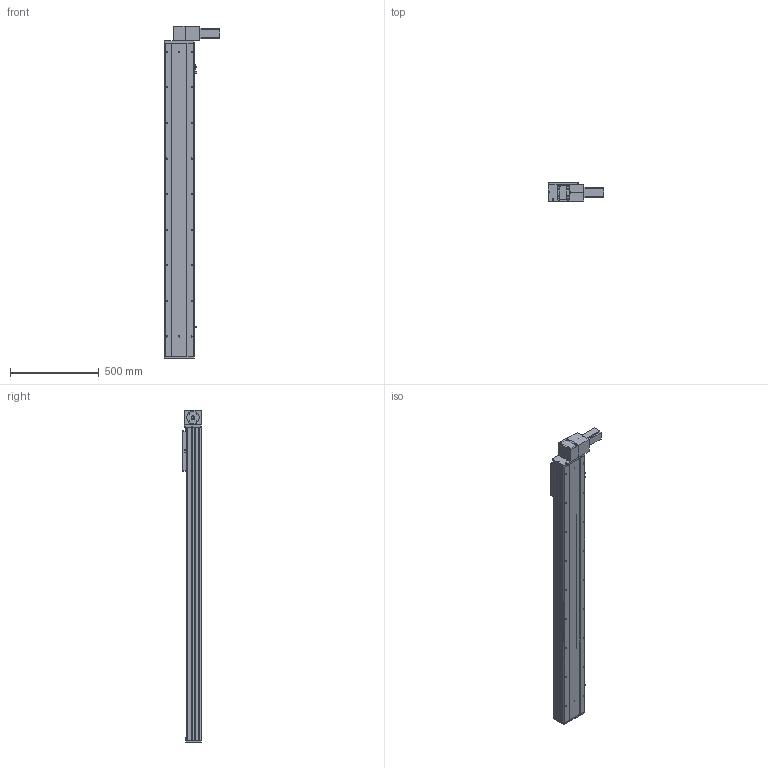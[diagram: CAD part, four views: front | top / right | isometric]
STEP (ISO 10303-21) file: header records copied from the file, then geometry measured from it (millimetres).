
FILE_DESCRIPTION (( 'STEP AP203' ), '1' );
FILE_NAME ('Y170CB-D105-S1450-BD-P400W.STEP', '2020-02-20T08:45:12', ( '微软用户' ), ( '微软中国' ), 'SwSTEP 2.0', 'SolidWorks 2017', '' );
FILE_SCHEMA (( 'CONFIG_CONTROL_DESIGN' ));
Length unit declared in the file: millimetre
Products named in the file (16): 70CB-詩湍--; 70CB--耜裔; Y100-135俋离換覜ん--; 70C-雄赽釱-奻-; Y170CB-陔俋离換覜結え---; B-源倛裔啣; Y1埴倛裔; san松下电机400不带刹车----; 70B喘謫眊----; 70CB-掛极-; 0B薊粣ん眊-400W--; --70CB --喘謫眊楊擘啣-; Y170CB-D105-S1450-BD-P400W; 70CB-耜裔啣-; 0C--雄赽釱俋欶-170; 70C--詩湍揤踡え-
Assembly tree (19 placements, depth 2):
  Y170CB-D105-S1450-BD-P400W
    B-源倛裔啣
    san松下电机400不带刹车----
    70CB-掛极-
    --70CB --喘謫眊楊擘啣-
    70CB-耜裔啣-  x2
    70C--詩湍揤踡え-  x2
    70CB--耜裔
    70C-雄赽釱-奻-
    0C--雄赽釱俋欶-170
    70CB-詩湍--
    Y100-135俋离換覜ん--  x3
    Y170CB-陔俋离換覜結え---
    Y1埴倛裔
    70B喘謫眊----
    0B薊粣ん眊-400W--
Bounding box: 313.5 x 107 x 1866 mm (x, y, z)
Volume: 8599013.3 mm3; surface area: 2960855.4 mm2
Topology: 19 solids, 19 shells, 936 faces, 2474 edges, 1640 vertices
Faces by surface type: cylinder 490, plane 422, cone 24
Entity records: 29303 total; most frequent: CARTESIAN_POINT 5446, DIRECTION 4767, ORIENTED_EDGE 4430, EDGE_CURVE 2215, AXIS2_PLACEMENT_3D 1761, VERTEX_POINT 1470, LINE 1245, VECTOR 1245
